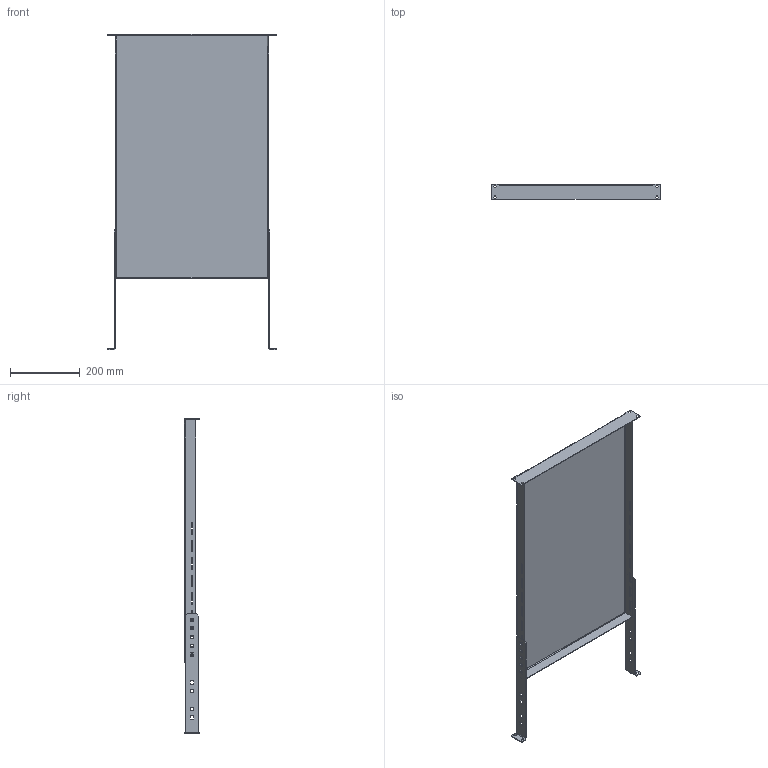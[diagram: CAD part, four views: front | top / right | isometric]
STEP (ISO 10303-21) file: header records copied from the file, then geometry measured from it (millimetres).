
FILE_DESCRIPTION((''),'2;1');
FILE_NAME('D:\scratch\ideas\p19sh810b.stp','2006-12-08T10:20:12',( 'User'),('SDRC'),'I-DEAS Master Series 9','UNIX','Yes');
FILE_SCHEMA(('AUTOMOTIVE_DESIGN { 1 0 10303 214 0 1 1 1 }'));
Length unit declared in the file: inch
Products named in the file (3): 47409; 87751745; 87747023
Assembly tree (3 placements, depth 2):
  47409
    87751745
    87747023  x2
Bounding box: 482.6 x 43.66 x 902.67 mm (x, y, z)
Volume: 749504.6 mm3; surface area: 816143.2 mm2
Topology: 3 solids, 3 shells, 268 faces, 738 edges, 476 vertices
Faces by surface type: bspline 268
Entity records: 6314 total; most frequent: CARTESIAN_POINT 2857, ORIENTED_EDGE 1096, EDGE_CURVE 548, VERTEX_POINT 352, QUASI_UNIFORM_CURVE 300, EDGE_LOOP 262, FACE_OUTER_BOUND 200, ADVANCED_FACE 200
